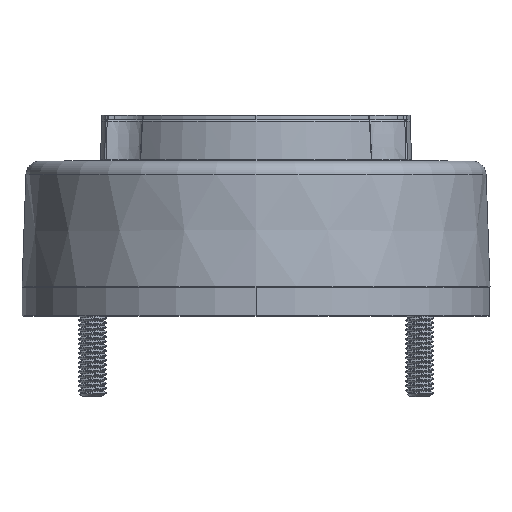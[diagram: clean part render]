
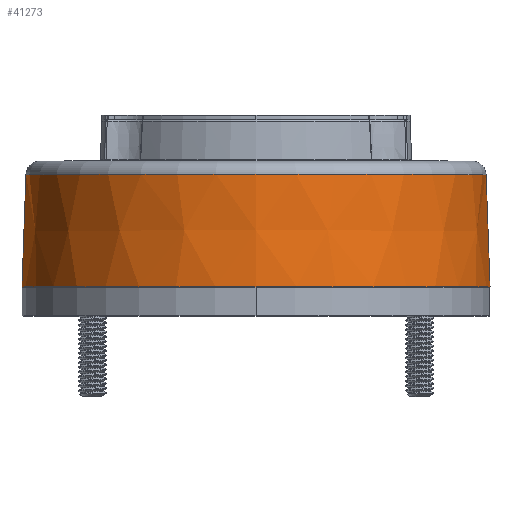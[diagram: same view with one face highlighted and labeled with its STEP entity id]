
A CAD part, top view. The second image highlights one B-rep face of the part: STEP entity #41273.
In plain terms, the highlighted conical face has half-angle 2 degrees and reference radius 25 mm.
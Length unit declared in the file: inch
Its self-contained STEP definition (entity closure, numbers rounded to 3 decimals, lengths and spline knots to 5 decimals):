
#8401 = DIRECTION ( 'NONE',  ( 1., 0., 0. ) ) ;
#8405 = DIRECTION ( 'NONE',  ( 0., -1., 0. ) ) ;
#8406 = CARTESIAN_POINT ( 'NONE',  ( -0.08788, 0.08223, 0.01325 ) ) ;
#11033 = EDGE_LOOP ( 'NONE', ( #52158, #52428, #52487, #61390 ) ) ;
#12721 = VERTEX_POINT ( 'NONE', #46095 ) ;
#13057 = VECTOR ( 'NONE', #54695, 39.37008 ) ;
#13060 = LINE ( 'NONE', #54694, #13057 ) ;
#13497 = CIRCLE ( 'NONE', #74430, 0.98425 ) ;
#19618 = EDGE_CURVE ( 'NONE', #57078, #73257, #26279, .T. ) ;
#19851 = EDGE_CURVE ( 'NONE', #57078, #12721, #26524, .T. ) ;
#25137 = CARTESIAN_POINT ( 'NONE',  ( 0.87988, 0.55436, 0.01325 ) ) ;
#26279 = CIRCLE ( 'NONE', #28945, 0.96776 ) ;
#26524 = LINE ( 'NONE', #37382, #26531 ) ;
#26531 = VECTOR ( 'NONE', #37385, 39.37008 ) ;
#27917 = EDGE_CURVE ( 'NONE', #73257, #73233, #13060, .T. ) ;
#28018 = AXIS2_PLACEMENT_3D ( 'NONE', #8406, #8405, #8401 ) ;
#28300 = EDGE_CURVE ( 'NONE', #12721, #73233, #13497, .T. ) ;
#28945 = AXIS2_PLACEMENT_3D ( 'NONE', #46762, #46763, #46764 ) ;
#37382 = CARTESIAN_POINT ( 'NONE',  ( 0.89637, 0.08223, 0.01325 ) ) ;
#37385 = DIRECTION ( 'NONE',  ( 0.035, -0.999, 0. ) ) ;
#41273 = ADVANCED_FACE ( 'NONE', ( #47514 ), #47522, .T. ) ;
#45133 = CARTESIAN_POINT ( 'NONE',  ( -0.08788, 0.08223, 0.01325 ) ) ;
#45134 = DIRECTION ( 'NONE',  ( 0., -1., 0. ) ) ;
#45136 = DIRECTION ( 'NONE',  ( 1., 0., 0. ) ) ;
#46095 = CARTESIAN_POINT ( 'NONE',  ( 0.89637, 0.08223, 0.01325 ) ) ;
#46762 = CARTESIAN_POINT ( 'NONE',  ( -0.08788, 0.55436, 0.01325 ) ) ;
#46763 = DIRECTION ( 'NONE',  ( 0., -1., 0. ) ) ;
#46764 = DIRECTION ( 'NONE',  ( -1., 0., 0. ) ) ;
#47514 = FACE_OUTER_BOUND ( 'NONE', #11033, .T. ) ;
#47522 = CONICAL_SURFACE ( 'NONE', #28018, 0.98425, 0.035 ) ;
#52158 = ORIENTED_EDGE ( 'NONE', *, *, #19618, .T. ) ;
#52428 = ORIENTED_EDGE ( 'NONE', *, *, #27917, .T. ) ;
#52487 = ORIENTED_EDGE ( 'NONE', *, *, #28300, .F. ) ;
#52838 = CARTESIAN_POINT ( 'NONE',  ( -1.07213, 0.08223, 0.01325 ) ) ;
#52862 = CARTESIAN_POINT ( 'NONE',  ( -1.05565, 0.55436, 0.01325 ) ) ;
#54694 = CARTESIAN_POINT ( 'NONE',  ( -1.07213, 0.08223, 0.01325 ) ) ;
#54695 = DIRECTION ( 'NONE',  ( -0.035, -0.999, 0. ) ) ;
#57078 = VERTEX_POINT ( 'NONE', #25137 ) ;
#61390 = ORIENTED_EDGE ( 'NONE', *, *, #19851, .F. ) ;
#73233 = VERTEX_POINT ( 'NONE', #52838 ) ;
#73257 = VERTEX_POINT ( 'NONE', #52862 ) ;
#74430 = AXIS2_PLACEMENT_3D ( 'NONE', #45133, #45134, #45136 ) ;
